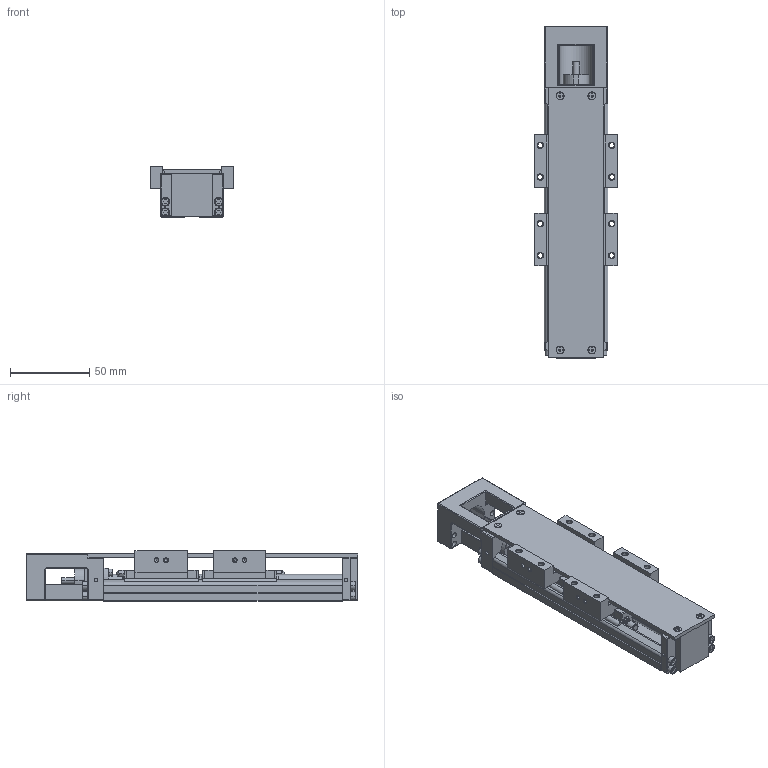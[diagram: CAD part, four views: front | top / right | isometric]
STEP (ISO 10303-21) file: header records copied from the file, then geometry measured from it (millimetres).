
FILE_DESCRIPTION(('no description'),'unknown implementation level');
FILE_NAME('KK4001P150A2F0C00_FILE_10.stp',' ',('HIWIN GmbH'),('CADClick - KiM GmbH - www.kimweb.de'),'unknown preprocess','ACIS','unknown authorization');
FILE_SCHEMA(('automotive_design'));
Length unit declared in the file: millimetre
Products named in the file (3): KK4001P150A2F0C00_FILE_1; KK40_FILE; KK4001P150A2F0C00_FILE
Bounding box: 52 x 209 x 32 mm (x, y, z)
Volume: 162886.4 mm3; surface area: 76932.4 mm2
Topology: 3 solids, 27 shells, 1396 faces, 3624 edges, 2298 vertices
Faces by surface type: plane 820, cylinder 424, cone 88, torus 56, sphere 8
Entity records: 84740 total; most frequent: CARTESIAN_POINT 9093, DIRECTION 7390, STYLED_ITEM 7301, PRESENTATION_STYLE_ASSIGNMENT 7301, COLOUR_RGB 7301, ORIENTED_EDGE 7208, EDGE_CURVE 3604, CURVE_STYLE 3604
